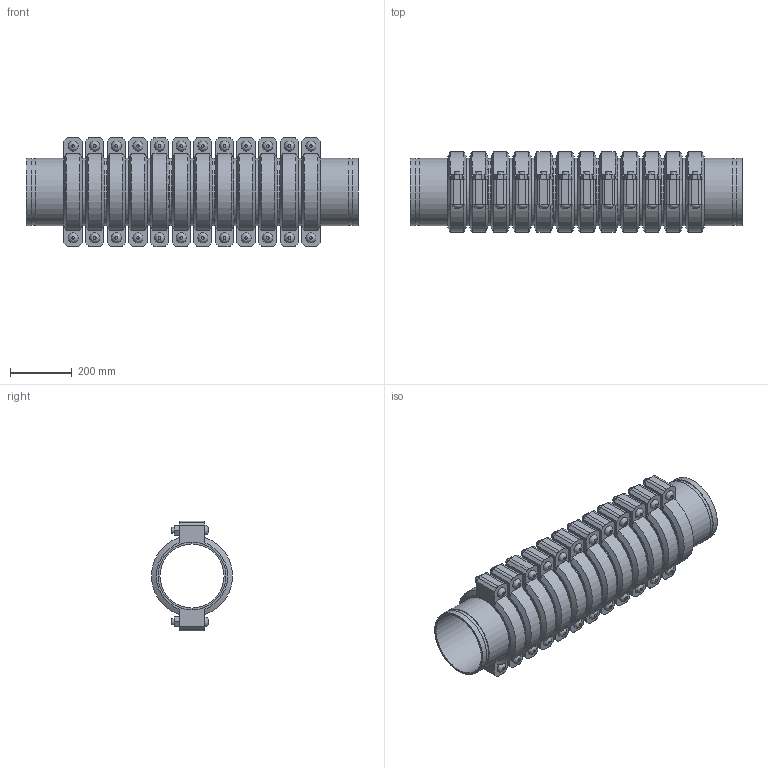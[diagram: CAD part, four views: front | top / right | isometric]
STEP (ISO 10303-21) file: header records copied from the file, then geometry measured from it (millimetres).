
FILE_DESCRIPTION(/* description */ ('VIC EXPANSION JOINT 12 COUPLINGS COMPRESSED STYLE 155 (OGS)','CAx-IF Rec.Pracs.---Representation and Presentation of Product Manufacturing Information (PMI)---4.0---2014-10-13'),/* implementation_level */ '2;1');
FILE_NAME(/* name */ 'C:\Users\kkamble\AppData\Roaming\Autodesk\ApplicationPlugins\Victaulic.Temp\A100\Victaulic_IPS_Expansion Joint_Compressed_12 Couplings_Style 155 (OGS)_8 (200).stp',/* time_stamp */ '2021-06-27T00:21:55+02:00',/* author */ ('kkamble'),/* organization */ ('Victaulic'),/* preprocessor_version */ 'ST-DEVELOPER v17.2',/* originating_system */ 'Autodesk Inventor 2019',/* authorisation */ '');
FILE_SCHEMA (('AP242_MANAGED_MODEL_BASED_3D_ENGINEERING_MIM_LF { 1 0 10303 442 1 1 4 }'));
Length unit declared in the file: inch
Products named in the file (4): 155-08.0; Nipple-08.0; Nipple-08.0_1; 075_12_Coup-08.0
Assembly tree (25 placements, depth 2):
  155-08.0
    Nipple-08.0  x2
    Nipple-08.0_1  x11
    075_12_Coup-08.0  x12
Bounding box: 1073.15 x 261.72 x 354.84 mm (x, y, z)
Volume: 20293512.5 mm3; surface area: 3655067.7 mm2
Topology: 25 solids, 49 shells, 840 faces, 1986 edges, 1392 vertices
Faces by surface type: plane 510, cylinder 258, cone 48, bspline 24
Full cylindrical faces by diameter (mm): 19.05 x48, 21.209 x24, 206.985 x13, 212.725 x12, 214.401 x26, 219.075 x63
Entity records: 2922 total; most frequent: CARTESIAN_POINT 509, DIRECTION 493, ORIENTED_EDGE 386, AXIS2_PLACEMENT_3D 200, EDGE_CURVE 193, VERTEX_POINT 138, EDGE_LOOP 107, LINE 93
